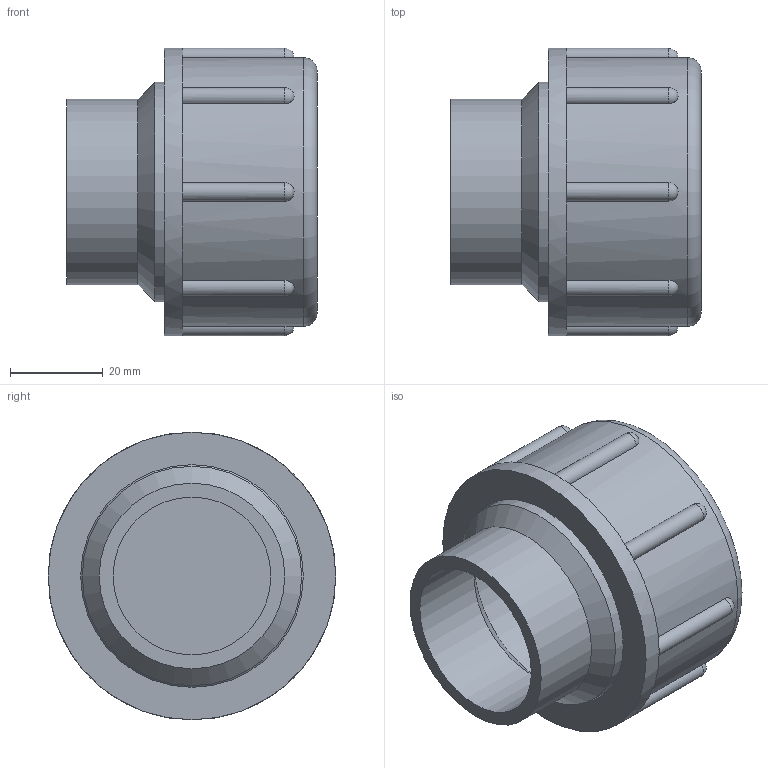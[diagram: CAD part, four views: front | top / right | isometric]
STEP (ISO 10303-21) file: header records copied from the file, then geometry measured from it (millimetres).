
FILE_DESCRIPTION(/* description */ (''),/* implementation_level */ '2;1');
FILE_NAME(/* name */ 'Z:\Geberit\Export\NewStep\Gewindest. m. Verschlk._Iassembly\stp\360750.stp',/* time_stamp */ '2014-04-03T17:41:06+02:00',/* author */ ('Marco'),/* organization */ (''),/* preprocessor_version */ 'ST-DEVELOPER v15.2',/* originating_system */ 'Autodesk Inventor 2014',/* authorisation */ '');
FILE_SCHEMA (('AUTOMOTIVE_DESIGN { 1 0 10303 214 3 1 1 }'));
Length unit declared in the file: millimetre
Products named in the file (3): 360784; 360785; 360750
Bounding box: 54 x 62 x 62 mm (x, y, z)
Volume: 64711.5 mm3; surface area: 31349.8 mm2
Topology: 2 solids, 2 shells, 43 faces, 112 edges, 65 vertices
Faces by surface type: cylinder 17, plane 12, sphere 8, cone 5, torus 1
Full cylindrical faces by diameter (mm): 34 x1, 40 x1, 40.7 x1, 47.3 x2, 48 x1, 52 x1, 58 x1, 62 x1
Entity records: 1447 total; most frequent: CARTESIAN_POINT 378, DIRECTION 226, ORIENTED_EDGE 178, AXIS2_PLACEMENT_3D 105, EDGE_CURVE 89, VERTEX_POINT 65, EDGE_LOOP 60, CIRCLE 57
